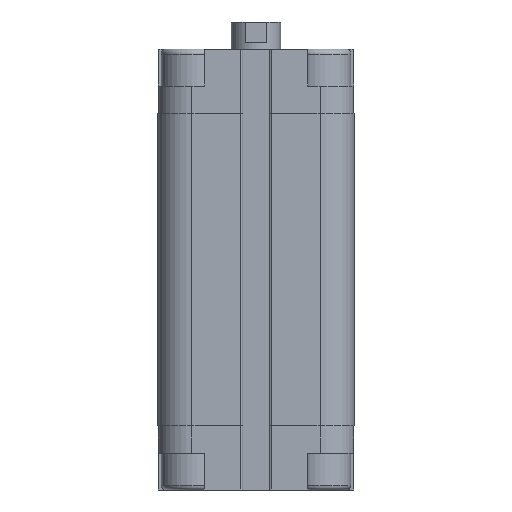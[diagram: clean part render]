
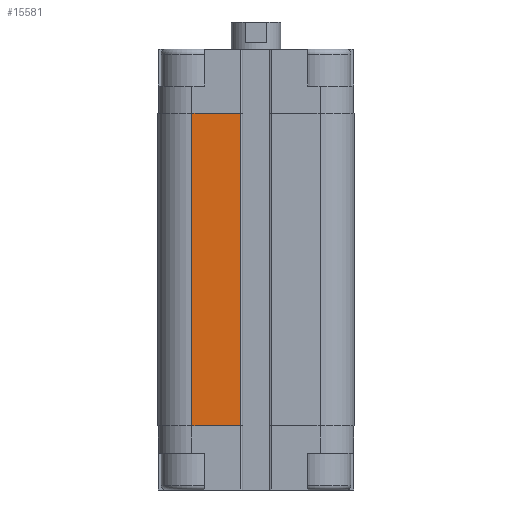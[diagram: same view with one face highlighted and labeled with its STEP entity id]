
A CAD part, front view. The second image highlights one B-rep face of the part: STEP entity #15581.
In plain terms, the highlighted planar face has unit normal (0, -1, 0).
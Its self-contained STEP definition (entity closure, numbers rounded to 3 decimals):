
#19 = CARTESIAN_POINT ( 'NONE',  ( -13., -20., -76.5 ) ) ;
#365 = VECTOR ( 'NONE', #11853, 1000. ) ;
#609 = VERTEX_POINT ( 'NONE', #19 ) ;
#1059 = CARTESIAN_POINT ( 'NONE',  ( -13., -20., -13. ) ) ;
#1093 = ORIENTED_EDGE ( 'NONE', *, *, #14104, .F. ) ;
#1943 = ORIENTED_EDGE ( 'NONE', *, *, #1995, .F. ) ;
#1995 = EDGE_CURVE ( 'NONE', #609, #17555, #13231, .T. ) ;
#2269 = CARTESIAN_POINT ( 'NONE',  ( -13., -20., -76.5 ) ) ;
#2415 = CARTESIAN_POINT ( 'NONE',  ( -3.1, -20., -76.5 ) ) ;
#2850 = FACE_OUTER_BOUND ( 'NONE', #12743, .T. ) ;
#4368 = CARTESIAN_POINT ( 'NONE',  ( -3.1, -20., -13. ) ) ;
#5436 = DIRECTION ( 'NONE',  ( 0., -1., 0. ) ) ;
#6232 = CARTESIAN_POINT ( 'NONE',  ( -13., -20., -76.5 ) ) ;
#6302 = LINE ( 'NONE', #1059, #13760 ) ;
#7799 = VECTOR ( 'NONE', #11453, 1000. ) ;
#8027 = VERTEX_POINT ( 'NONE', #4368 ) ;
#9151 = DIRECTION ( 'NONE',  ( 1., 0., 0. ) ) ;
#9620 = EDGE_CURVE ( 'NONE', #11123, #8027, #15669, .T. ) ;
#9759 = CARTESIAN_POINT ( 'NONE',  ( -13., -20., -76.5 ) ) ;
#9810 = CARTESIAN_POINT ( 'NONE',  ( -13., -20., -13. ) ) ;
#11123 = VERTEX_POINT ( 'NONE', #2415 ) ;
#11229 = DIRECTION ( 'NONE',  ( -1., 0., 0. ) ) ;
#11328 = PLANE ( 'NONE',  #14875 ) ;
#11453 = DIRECTION ( 'NONE',  ( 0., 0., 1. ) ) ;
#11558 = VECTOR ( 'NONE', #13490, 1000. ) ;
#11853 = DIRECTION ( 'NONE',  ( 0., 0., 1. ) ) ;
#11941 = ORIENTED_EDGE ( 'NONE', *, *, #16271, .T. ) ;
#12743 = EDGE_LOOP ( 'NONE', ( #1093, #1943, #11941, #15928 ) ) ;
#13231 = LINE ( 'NONE', #6232, #365 ) ;
#13490 = DIRECTION ( 'NONE',  ( 1., 0., 0. ) ) ;
#13760 = VECTOR ( 'NONE', #9151, 1000. ) ;
#14104 = EDGE_CURVE ( 'NONE', #17555, #8027, #6302, .T. ) ;
#14875 = AXIS2_PLACEMENT_3D ( 'NONE', #9759, #5436, #11229 ) ;
#14876 = LINE ( 'NONE', #2269, #11558 ) ;
#15581 = ADVANCED_FACE ( 'NONE', ( #2850 ), #11328, .T. ) ;
#15669 = LINE ( 'NONE', #16972, #7799 ) ;
#15928 = ORIENTED_EDGE ( 'NONE', *, *, #9620, .T. ) ;
#16271 = EDGE_CURVE ( 'NONE', #609, #11123, #14876, .T. ) ;
#16972 = CARTESIAN_POINT ( 'NONE',  ( -3.1, -20., -76.5 ) ) ;
#17555 = VERTEX_POINT ( 'NONE', #9810 ) ;
